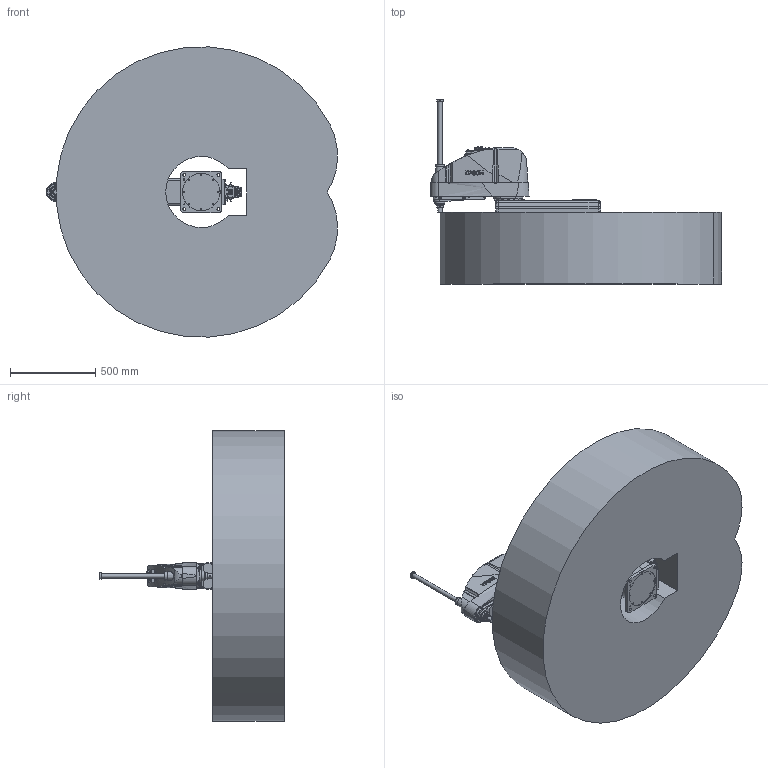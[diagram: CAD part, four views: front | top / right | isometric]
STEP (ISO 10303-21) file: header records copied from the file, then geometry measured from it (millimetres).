
FILE_DESCRIPTION( ( 'STEP AP214' ), '1' );
FILE_NAME( 'C:/Users/9607552/Desktop/GX10-B854S_langle.stp', '2023-08-01T09:14:22', ( '' ), ( '' ), ' ', 'PARTsolutions', ' ' );
FILE_SCHEMA( ( 'AUTOMOTIVE_DESIGN { 1 0 10303 214 1 1 1 1 }' ) );
Length unit declared in the file: millimetre
Products named in the file (7): GX10-B854SA-W; _Base s; _Angle-B; _J1 Arm GX10-450; _J2 Arm GX10-s; _J3 Arm GX10-s (4); _GX10_20B-22_4
Assembly tree (6 placements, depth 2):
  GX10-B854SA-W
    _Base s
    _Angle-B
    _J1 Arm GX10-450
    _J2 Arm GX10-s
    _J3 Arm GX10-s (4)
    _GX10_20B-22_4
Bounding box: 1702.55 x 1080 x 1697.41 mm (x, y, z)
Volume: 916113234 mm3; surface area: 8465419.6 mm2
Topology: 6 solids, 6 shells, 2390 faces, 5842 edges, 3816 vertices
Faces by surface type: plane 1257, cylinder 742, cone 296, torus 62, bspline 32, sphere 1
Full cylindrical faces by diameter (mm): 1 x24, 1.18 x55, 3 x32, 3.242 x10, 3.3 x4, 4.2 x4, 4.8 x4, 5.1 x4, 5.25 x2, 5.34 x4, 5.4 x5, 5.5 x12, 6 x1, 6.2 x4, 6.647 x2, 7 x31, 8 x9, 8.5 x2, 9 x4, 10 x32, 11 x14, 12 x6, 12.25 x1, 13 x2, 14 x8, 14.25 x1, 16 x6, 18 x1, 20.4 x1, 21.7 x2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
Entity records: 90691 total; most frequent: CARTESIAN_POINT 17384, DIRECTION 11177, ORIENTED_EDGE 10390, EDGE_CURVE 5195, AXIS2_PLACEMENT_3D 4267, VERTEX_POINT 3735, EDGE_LOOP 3334, FACE_OUTER_BOUND 2753
